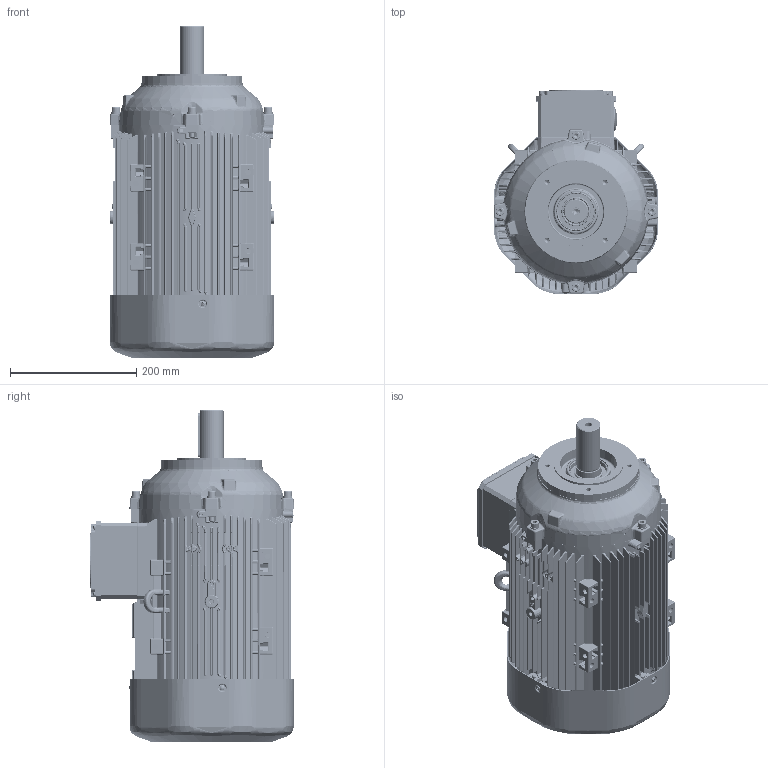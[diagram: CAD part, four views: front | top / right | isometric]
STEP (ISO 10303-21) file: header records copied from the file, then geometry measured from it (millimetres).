
FILE_DESCRIPTION(/* description */ (''),/* implementation_level */ '2;1');
FILE_NAME(/* name */ 'OUTLOOK VIEW QH132 FC B14 - REDUCED FT130 SPL.stp',/* time_stamp */ '2021-09-21T15:07:34+03:00',/* author */ (''),/* organization */ (''),/* preprocessor_version */ 'ST-DEVELOPER v16',/* originating_system */ 'SIEMENS PLM Software NX 11.0',/* authorisation */ '');
FILE_SCHEMA (('AUTOMOTIVE_DESIGN { 1 0 10303 214 3 1 1 1 }'));
Length unit declared in the file: millimetre
Products named in the file (1): 260652D491E0rxd8
Bounding box: 260.83 x 323.12 x 526.5 mm (x, y, z)
Volume: 4143265.5 mm3; surface area: 1722319.6 mm2
Topology: 65 solids, 67 shells, 13340 faces, 31305 edges, 17389 vertices
Faces by surface type: cylinder 4346, bspline 3753, plane 2682, sphere 1236, torus 804, cone 490, extrusion 29
Full cylindrical faces by diameter (mm): 2.5 x2, 3.5 x2, 4 x4, 4.2 x8, 5.5 x8, 5.6 x1, 6.8 x5, 8 x20, 8.028 x3, 8.477 x2, 8.478 x1, 8.5 x8, 9 x4, 10.5 x1, 13 x8, 15 x2, 30.4 x2, 34.4 x1, 35 x1, 37.4 x1, 37.5 x1, 38 x1, 39.4 x2, 40 x5, 40.2 x1, 40.5 x1, 42.94 x1, 44 x2, 46.5 x1, 52.6 x4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
Entity records: 436195 total; most frequent: CARTESIAN_POINT 155933, ORIENTED_EDGE 59360, DIRECTION 56517, EDGE_CURVE 29680, AXIS2_PLACEMENT_3D 23192, VERTEX_POINT 17170, EDGE_LOOP 14540, ADVANCED_FACE 13339
